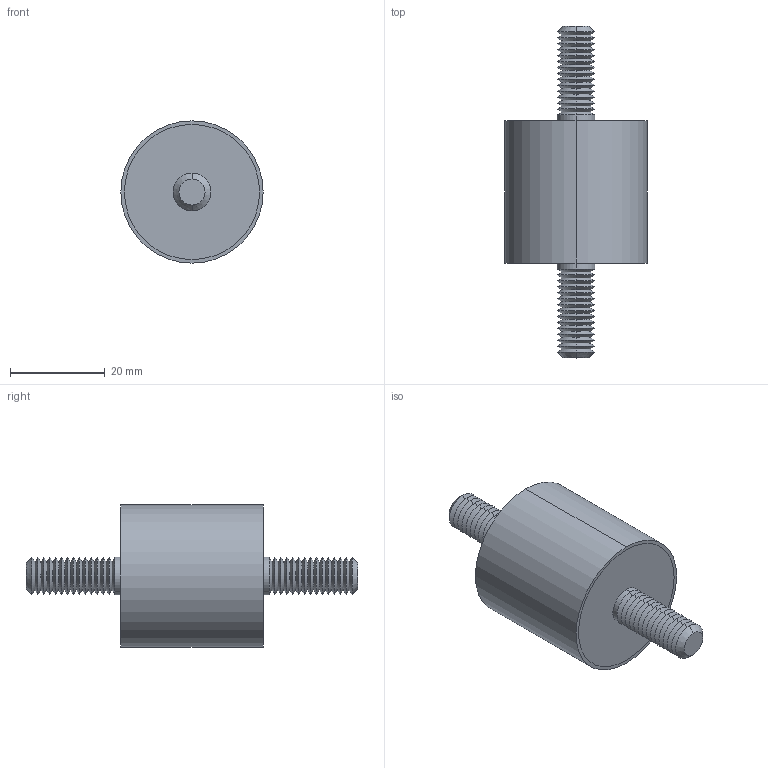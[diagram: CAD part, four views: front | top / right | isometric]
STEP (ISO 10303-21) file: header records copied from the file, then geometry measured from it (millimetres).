
FILE_DESCRIPTION (( 'STEP AP203' ), '1' );
FILE_NAME ('61040.W0306.step', '2019-09-24T22:34:07', ( '' ), ( '' ), 'SwSTEP 2.0', 'SolidWorks 2017', '' );
FILE_SCHEMA (( 'CONFIG_CONTROL_DESIGN' ));
Length unit declared in the file: millimetre
Products named in the file (4): Part2_61040.W0306; Part3_61040.W0306; 61040.W0306; Part1_61040.W0306
Assembly tree (3 placements, depth 2):
  61040.W0306
    Part1_61040.W0306
    Part2_61040.W0306
    Part3_61040.W0306
Bounding box: 30 x 70 x 30 mm (x, y, z)
Volume: 22748 mm3; surface area: 8936.1 mm2
Topology: 3 solids, 3 shells, 140 faces, 274 edges, 144 vertices
Faces by surface type: cone 116, cylinder 14, plane 10
Entity records: 3908 total; most frequent: DIRECTION 710, CARTESIAN_POINT 564, ORIENTED_EDGE 548, AXIS2_PLACEMENT_3D 290, EDGE_CURVE 274, VERTEX_POINT 144, CIRCLE 144, EDGE_LOOP 144
